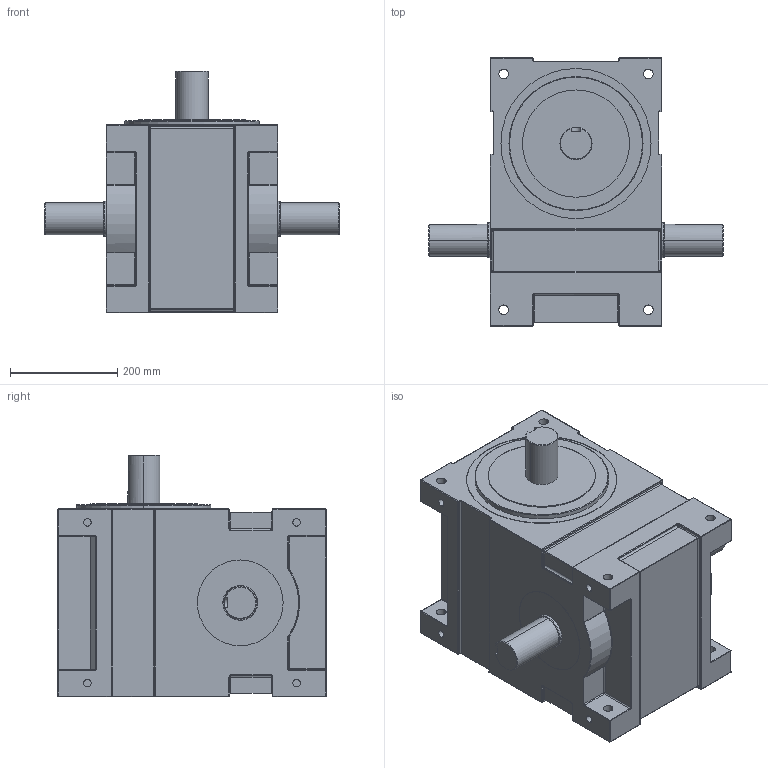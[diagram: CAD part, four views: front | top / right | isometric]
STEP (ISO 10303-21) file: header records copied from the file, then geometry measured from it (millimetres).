
FILE_DESCRIPTION((''),'2;1');
FILE_NAME('180DS','2015-01-16T',('松仔'),(''),'PRO/ENGINEER BY PARAMETRIC TECHNOLOGY CORPORATION, 2013430','PRO/ENGINEER BY PARAMETRIC TECHNOLOGY CORPORATION, 2013430','');
FILE_SCHEMA(('CONFIG_CONTROL_DESIGN'));
Length unit declared in the file: millimetre
Products named in the file (1): 180DS
Bounding box: 550 x 500 x 450 mm (x, y, z)
Volume: 51971540.6 mm3; surface area: 1034845.1 mm2
Topology: 1 solids, 1 shells, 444 faces, 971 edges, 548 vertices
Faces by surface type: cylinder 233, plane 90, torus 54, sphere 40, bspline 24, cone 3
Entity records: 14254 total; most frequent: CARTESIAN_POINT 4507, DIRECTION 2155, ORIENTED_EDGE 1942, EDGE_CURVE 971, AXIS2_PLACEMENT_3D 863, VERTEX_POINT 548, EDGE_LOOP 479, FACE_OUTER_BOUND 444
